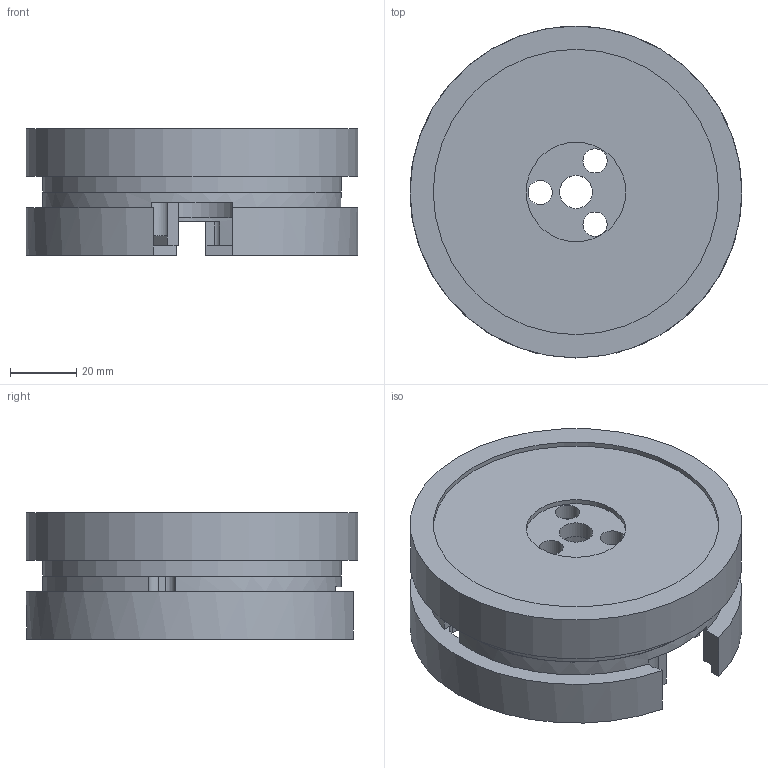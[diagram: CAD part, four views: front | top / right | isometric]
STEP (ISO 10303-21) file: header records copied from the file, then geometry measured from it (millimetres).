
FILE_DESCRIPTION(/* description */ (''),/* implementation_level */ '2;1');
FILE_NAME(/* name */ 'baseforled_.step',/* time_stamp */ '2025-06-18T12:23:16+05:30',/* author */ (''),/* organization */ (''),/* preprocessor_version */ 'ST-DEVELOPER v20.1',/* originating_system */ 'Autodesk Translation Framework v14.10.0.0',/* authorisation */ '');
FILE_SCHEMA (('AUTOMOTIVE_DESIGN { 1 0 10303 214 3 1 1 }'));
Length unit declared in the file: millimetre
Products named in the file (4): baseforled; Base; Component29; Component30
Assembly tree (3 placements, depth 3):
  baseforled
    Base
      Component29
      Component30
Bounding box: 100 x 100 x 38 mm (x, y, z)
Volume: 193472.5 mm3; surface area: 48403.7 mm2
Topology: 2 solids, 2 shells, 84 faces, 224 edges, 148 vertices
Faces by surface type: plane 44, cylinder 40
Full cylindrical faces by diameter (mm): 3 x2, 3.5 x3, 6 x1, 7.28 x3, 10 x1, 29.861 x2, 30 x1, 86 x1, 90 x1, 100 x1
Entity records: 2825 total; most frequent: DIRECTION 505, CARTESIAN_POINT 463, ORIENTED_EDGE 448, EDGE_CURVE 224, AXIS2_PLACEMENT_3D 190, VERTEX_POINT 148, LINE 125, VECTOR 125
